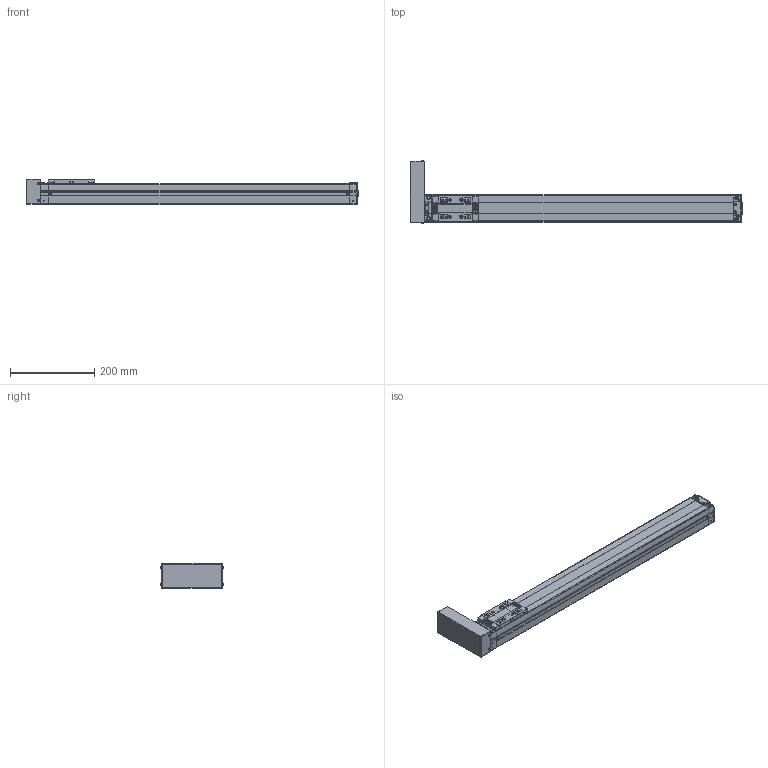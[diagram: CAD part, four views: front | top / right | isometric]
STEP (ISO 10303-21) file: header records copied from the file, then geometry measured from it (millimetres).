
FILE_DESCRIPTION(('STEP AP203'),'1');
FILE_NAME('Z:/Web/3D/SAN65/2012.ver/STP/600/SAN65ㅁㅁ-600PL.stp','2014-06-13T04:48:10',(' '),(' '),'Spatial InterOp 3D',' ',' ');
FILE_SCHEMA(('CONFIG_CONTROL_DESIGN'));
Length unit declared in the file: millimetre
Products named in the file (28): 1; 2; 3; 4; 5; 6; 7; 8; 9; 10; 11; 12; 13; 14; 15; 16; 17; 18; 19; 20; 21; 22; 23; 24; 25; 26; 27; 28
Bounding box: 790.15 x 149.13 x 61 mm (x, y, z)
Volume: 2693514.9 mm3; surface area: 295921.9 mm2
Topology: 28 solids, 28 shells, 1787 faces, 4656 edges, 2979 vertices
Faces by surface type: plane 891, cylinder 629, cone 175, sphere 40, bspline 28, torus 18, extrusion 6
Full cylindrical faces by diameter (mm): 2.132 x1, 3.5 x2, 6 x2
Entity records: 58247 total; most frequent: CARTESIAN_POINT 12292, DIRECTION 9660, ORIENTED_EDGE 9104, EDGE_CURVE 4552, AXIS2_PLACEMENT_3D 3423, VERTEX_POINT 2978, VECTOR 2814, LINE 2808
